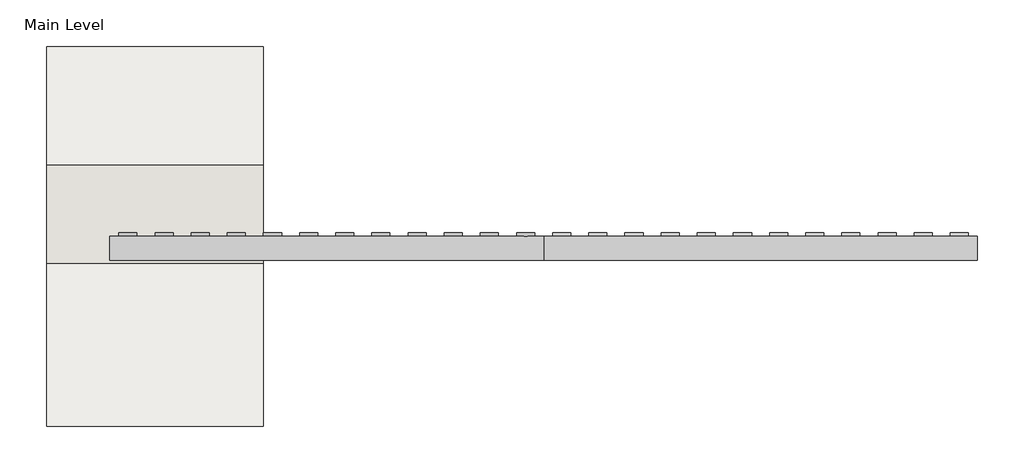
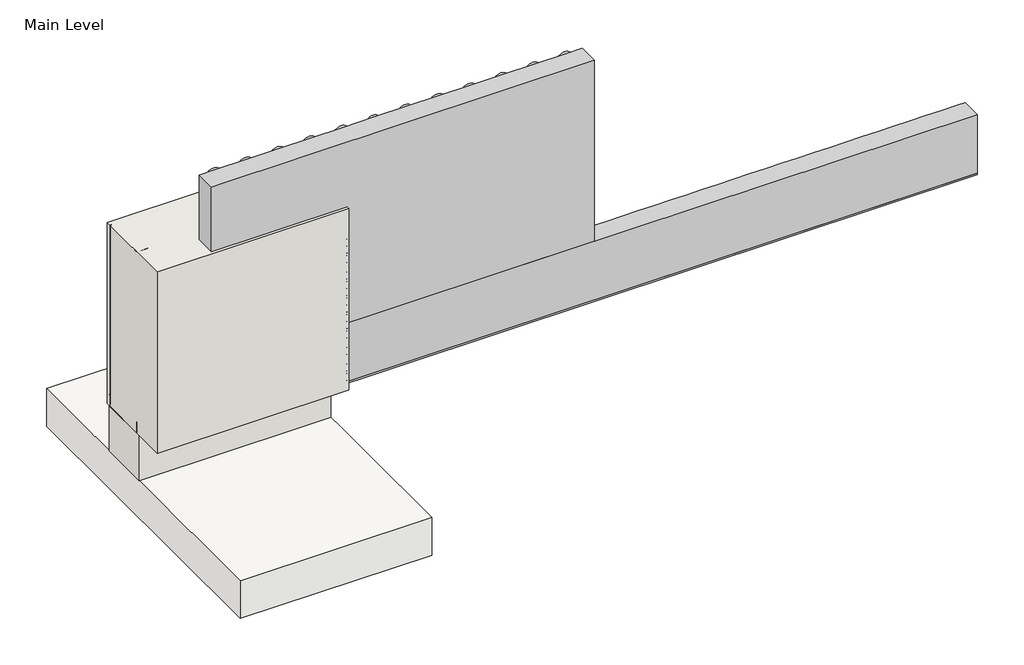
# One storey, incomplete: 18 proxies, 2 walls, 1 slab.
"""IFC4 building model written with IfcOpenShell, lengths in millimetres."""

from ifc_helpers import new_model, si_unit, frame, origin, origin_with_axes, place, context, project, spatial, polyline, outline, extrude, transform, mapped, element, save
from components import generic_models_31547c53, generic_models_0bbfdc8f, generic_models_1e1ad44f, generic_models_7dd17a53, generic_models_441de798, generic_models_9d0e7a2a, generic_models_a6b5edb7, generic_models_03ec6e0e, proxy_50213ae0, proxy_cc65e3d2, wood_blocking_c9818c35

model = new_model("IFC4")

# Units and contexts
model_context = context("Model", 3, world=origin())
ifc_project = project(units=[si_unit("LENGTHUNIT", "METRE", prefix="MILLI")], contexts=[model_context])

# Site, building, storey
site = spatial("IfcSite", under=ifc_project)
building = spatial("IfcBuilding", under=site)
storey = spatial("IfcBuildingStorey", under=building, Name="Main Level", Elevation=0.0)

# Proxies
placement = place(None, origin())
generic_models_shape = generic_models_31547c53(model_context)
element("IfcBuildingElementProxy", 1, Name="Durabond Generic Model Sealant Vent : Durabond Generic Model Sealant Vent", ObjectType="Durabond Generic Model Sealant Vent : Durabond Generic Model Sealant Vent", at=placement, inside=storey, context=model_context, shape_type="MappedRepresentation", body=[
    mapped(generic_models_shape, transform((26865.4101773, 546.8432813, 8.5594788), x_axis=(1.0, 0.0, 0.0), y_axis=(0.0, 0.08715574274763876, -0.9961946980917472), z_axis=(0.0, 0.9961946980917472, 0.08715574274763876))),
])
generic_models_2_shape = generic_models_0bbfdc8f(model_context)
generic_models_3_shape = generic_models_1e1ad44f(model_context)
generic_models_4_shape = generic_models_7dd17a53(model_context)
generic_models_5_shape = generic_models_441de798(model_context)
element("IfcBuildingElementProxy", 2, Name="CRAi Generic Model Mesh Piece Face Based : CRAi Generic Model Mesh Piece Face Based", ObjectType="CRAi Generic Model Mesh Piece Face Based : CRAi Generic Model Mesh Piece Face Based", at=placement, inside=storey, context=model_context, shape_type="MappedRepresentation", body=[
    mapped(generic_models_2_shape, transform((26933.6726773, 541.9066297, 261.6963215), x_axis=(-1.0, 0.0, 0.0), y_axis=(0.0, 0.0, -1.0), z_axis=(0.0, -1.0, 0.0))),
    mapped(generic_models_3_shape, transform((26933.6726773, 541.9066297, 261.6963215), x_axis=(-1.0, 0.0, 0.0), y_axis=(0.0, 0.0, -1.0), z_axis=(0.0, -1.0, 0.0))),
    mapped(generic_models_4_shape, transform((26933.6726773, 541.9066297, 261.6963215), x_axis=(-1.0, 0.0, 0.0), y_axis=(0.0, 0.0, -1.0), z_axis=(0.0, -1.0, 0.0))),
    mapped(generic_models_5_shape, transform((26933.6726773, 541.9066297, 261.6963215), x_axis=(-1.0, 0.0, 0.0), y_axis=(0.0, 0.0, -1.0), z_axis=(0.0, -1.0, 0.0))),
])
generic_models_6_shape = generic_models_9d0e7a2a(model_context)
element("IfcBuildingElementProxy", 3, Name="CRAi Generic Model Metal Stud Array : CRAi Generic Model Metal Stud Array", ObjectType="CRAi Generic Model Metal Stud Array : CRAi Generic Model Metal Stud Array", at=placement, inside=storey, context=model_context, shape_type="MappedRepresentation", body=[
    mapped(generic_models_6_shape, transform((26692.3726773, 726.0566297, 6.35), x_axis=(-1.0, 0.0, 0.0), y_axis=(0.0, -1.0, 0.0), z_axis=(0.0, 0.0, 1.0))),
])
generic_models_7_shape = generic_models_a6b5edb7(model_context)
element("IfcBuildingElementProxy", 4, Name="Durabond Generic Model Insulation Adhesive Flat : Durabond Generic Model Insulation Adhesive Flat", ObjectType="Durabond Generic Model Insulation Adhesive Flat : Durabond Generic Model Insulation Adhesive Flat", at=placement, inside=storey, context=model_context, shape_type="MappedRepresentation", body=[
    mapped(generic_models_7_shape, transform((26717.7726773, 627.6316297, 88.9), x_axis=(1.0, 0.0, 0.0), y_axis=(0.0, 1.0, 0.0), z_axis=(0.0, 0.0, 1.0))),
])
element("IfcBuildingElementProxy", 5, Name="Durabond Generic Model Insulation Adhesive Flat : Durabond Generic Model Insulation Adhesive Flat", ObjectType="Durabond Generic Model Insulation Adhesive Flat : Durabond Generic Model Insulation Adhesive Flat", at=placement, inside=storey, context=model_context, shape_type="MappedRepresentation", body=[
    mapped(generic_models_7_shape, transform((26819.3726773, 627.6316297, 88.9), x_axis=(1.0, 0.0, 0.0), y_axis=(0.0, 1.0, 0.0), z_axis=(0.0, 0.0, 1.0))),
])
element("IfcBuildingElementProxy", 6, Name="Durabond Generic Model Insulation Adhesive Flat : Durabond Generic Model Insulation Adhesive Flat", ObjectType="Durabond Generic Model Insulation Adhesive Flat : Durabond Generic Model Insulation Adhesive Flat", at=placement, inside=storey, context=model_context, shape_type="MappedRepresentation", body=[
    mapped(generic_models_7_shape, transform((26920.9726773, 627.6316297, 88.9), x_axis=(1.0, 0.0, 0.0), y_axis=(0.0, 1.0, 0.0), z_axis=(0.0, 0.0, 1.0))),
])
element("IfcBuildingElementProxy", 7, Name="Durabond Generic Model Insulation Adhesive Flat : Durabond Generic Model Insulation Adhesive Flat", ObjectType="Durabond Generic Model Insulation Adhesive Flat : Durabond Generic Model Insulation Adhesive Flat", at=placement, inside=storey, context=model_context, shape_type="MappedRepresentation", body=[
    mapped(generic_models_7_shape, transform((27022.5726773, 627.6316297, 88.9), x_axis=(1.0, 0.0, 0.0), y_axis=(0.0, 1.0, 0.0), z_axis=(0.0, 0.0, 1.0))),
])
generic_models_8_shape = generic_models_03ec6e0e(model_context)
element("IfcBuildingElementProxy", 8, Name="CRAi Generic Model Drywall Screw : CRAi Generic Model Drywall Screw", ObjectType="CRAi Generic Model Drywall Screw : CRAi Generic Model Drywall Screw", at=placement, inside=storey, context=model_context, shape_type="MappedRepresentation", body=[
    mapped(generic_models_8_shape, transform((26508.2226773, 633.9816297, 25.4), x_axis=(1.0, 0.0, 0.0), y_axis=(0.0, 0.0, 1.0), z_axis=(0.0, -1.0, 0.0))),
])
element("IfcBuildingElementProxy", 9, Name="CRAi Generic Model Drywall Screw : CRAi Generic Model Drywall Screw", ObjectType="CRAi Generic Model Drywall Screw : CRAi Generic Model Drywall Screw", at=placement, inside=storey, context=model_context, shape_type="MappedRepresentation", body=[
    mapped(generic_models_8_shape, transform((26508.2226773, 633.9816297, 215.9), x_axis=(1.0, 0.0, 0.0), y_axis=(0.0, 0.0, 1.0), z_axis=(0.0, -1.0, 0.0))),
])
element("IfcBuildingElementProxy", 10, Name="CRAi Generic Model Drywall Screw : CRAi Generic Model Drywall Screw", ObjectType="CRAi Generic Model Drywall Screw : CRAi Generic Model Drywall Screw", at=placement, inside=storey, context=model_context, shape_type="MappedRepresentation", body=[
    mapped(generic_models_8_shape, transform((26508.2226773, 633.9816297, 406.4), x_axis=(1.0, 0.0, 0.0), y_axis=(0.0, 0.0, 1.0), z_axis=(0.0, -1.0, 0.0))),
])
element("IfcBuildingElementProxy", 11, Name="CRAi Generic Model Drywall Screw : CRAi Generic Model Drywall Screw", ObjectType="CRAi Generic Model Drywall Screw : CRAi Generic Model Drywall Screw", at=placement, inside=storey, context=model_context, shape_type="MappedRepresentation", body=[
    mapped(generic_models_8_shape, transform((26508.2226773, 633.9816297, 596.9), x_axis=(1.0, 0.0, 0.0), y_axis=(0.0, 0.0, 1.0), z_axis=(0.0, -1.0, 0.0))),
])
element("IfcBuildingElementProxy", 12, Name="CRAi Generic Model Drywall Screw : CRAi Generic Model Drywall Screw", ObjectType="CRAi Generic Model Drywall Screw : CRAi Generic Model Drywall Screw", at=placement, inside=storey, context=model_context, shape_type="MappedRepresentation", body=[
    mapped(generic_models_8_shape, transform((26876.5226773, 633.9816297, 25.4), x_axis=(1.0, 0.0, 0.0), y_axis=(0.0, 0.0, 1.0), z_axis=(0.0, -1.0, 0.0))),
])
element("IfcBuildingElementProxy", 13, Name="CRAi Generic Model Drywall Screw : CRAi Generic Model Drywall Screw", ObjectType="CRAi Generic Model Drywall Screw : CRAi Generic Model Drywall Screw", at=placement, inside=storey, context=model_context, shape_type="MappedRepresentation", body=[
    mapped(generic_models_8_shape, transform((26876.5226773, 633.9816297, 215.9), x_axis=(1.0, 0.0, 0.0), y_axis=(0.0, 0.0, 1.0), z_axis=(0.0, -1.0, 0.0))),
])
element("IfcBuildingElementProxy", 14, Name="CRAi Generic Model Drywall Screw : CRAi Generic Model Drywall Screw", ObjectType="CRAi Generic Model Drywall Screw : CRAi Generic Model Drywall Screw", at=placement, inside=storey, context=model_context, shape_type="MappedRepresentation", body=[
    mapped(generic_models_8_shape, transform((26876.5226773, 633.9816297, 406.4), x_axis=(1.0, 0.0, 0.0), y_axis=(0.0, 0.0, 1.0), z_axis=(0.0, -1.0, 0.0))),
])
element("IfcBuildingElementProxy", 15, Name="CRAi Generic Model Drywall Screw : CRAi Generic Model Drywall Screw", ObjectType="CRAi Generic Model Drywall Screw : CRAi Generic Model Drywall Screw", at=placement, inside=storey, context=model_context, shape_type="MappedRepresentation", body=[
    mapped(generic_models_8_shape, transform((26876.5226773, 633.9816297, 596.9), x_axis=(1.0, 0.0, 0.0), y_axis=(0.0, 0.0, 1.0), z_axis=(0.0, -1.0, 0.0))),
])
proxy_shape = proxy_50213ae0(model_context)
element("IfcBuildingElementProxy", 16, Name="Durabond Generic Model Quantum Select 5-0 Insulation Board : 3\"", ObjectType="Durabond Generic Model Quantum Select 5-0 Insulation Board : 3\"", at=placement, inside=storey, context=model_context, shape_type="MappedRepresentation", body=[
    mapped(proxy_shape, transform((27276.5726773, 624.4566297, 523.392643), x_axis=(1.0, 0.0, 0.0), y_axis=(0.0, 0.0, 1.0), z_axis=(0.0, -1.0, 0.0))),
])
proxy_2_shape = proxy_cc65e3d2(model_context)
element("IfcBuildingElementProxy", 17, Name="Durabond Generic Model Quantum Select 5-0 Vent Board : 3\"", ObjectType="Durabond Generic Model Quantum Select 5-0 Vent Board : 3\"", at=placement, inside=storey, context=model_context, shape_type="MappedRepresentation", body=[
    mapped(proxy_2_shape, transform((27886.1726773, 624.4566297, 116.992643), x_axis=(1.0, 0.0, 0.0), y_axis=(0.0, 0.0, 1.0), z_axis=(0.0, -1.0, 0.0))),
])
wood_blocking_shape = wood_blocking_c9818c35(model_context)
element("IfcBuildingElementProxy", 18, Name="CRAi Generic Model Line Based Metal Framing Track : Wood Blocking", ObjectType="CRAi Generic Model Line Based Metal Framing Track : Wood Blocking", at=placement, inside=storey, context=model_context, shape_type="MappedRepresentation", body=[
    mapped(wood_blocking_shape, transform((26489.1726773, 649.8566297, 0.0), x_axis=(1.0, 0.0, 0.0), y_axis=(0.0, 1.0, 0.0), z_axis=(0.0, 0.0, 1.0))),
])

# Slab
element("IfcSlab", 19, ObjectType="CRAi Concrete Floor - 5\"", at=placement, inside=storey, context=model_context, shape_type="SweptSolid", body=[
    extrude(outline(polyline([(27098.7726773, 81.5316297), (26489.1726773, 81.5316297), (26489.1726773, 1148.3316297), (27098.7726773, 1148.3316297), (27098.7726773, 81.5316297)])), frame((0.0, 0.0, -279.4), z_axis=(0.0, 0.0, 1.0), x_axis=(1.0, 0.0, 0.0)), (0.0, 0.0, 1.0), 127.0),
])

# Walls
element("IfcWall", 20, ObjectType="189mm (7.5”) EIFS Field Applied on Mtl. Stud Layer - 50mm Grooved Insulation Board Metal Stud Wall", at=placement, inside=storey, context=model_context, shape_type="SweptSolid", body=[
    extrude(outline(polyline([(27098.7726773, 538.7316297), (26489.1726773, 538.7316297), (26489.1726773, 814.9566297), (27098.7726773, 814.9566297), (27098.7726773, 538.7316297)])), origin_with_axes(), (0.0, 0.0, 1.0), 609.6),
])
element("IfcWall", 21, ObjectType="Durabond 6\" Concrete Wall", at=placement, inside=storey, context=model_context, shape_type="SweptSolid", body=[
    extrude(outline(polyline([(27098.7726773, 637.1566297), (26489.1726773, 637.1566297), (26489.1726773, 802.2566297), (27098.7726773, 802.2566297), (27098.7726773, 637.1566297)])), frame((0.0, 0.0, -152.4), z_axis=(0.0, 0.0, 1.0), x_axis=(1.0, 0.0, 0.0)), (0.0, 0.0, 1.0), 152.4),
])

save(model, "model.ifc")
